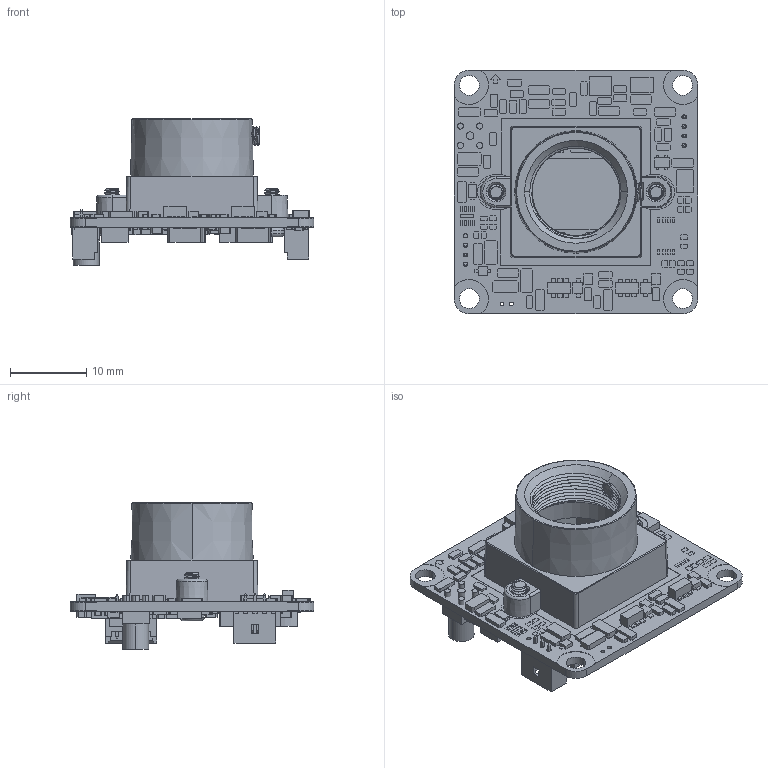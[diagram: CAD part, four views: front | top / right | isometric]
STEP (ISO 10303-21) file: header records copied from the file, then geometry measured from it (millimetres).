
FILE_DESCRIPTION(('FreeCAD Model'),'2;1');
FILE_NAME('Open CASCADE Shape Model','2025-01-24T15:45:31',(''),(''), 'Open CASCADE STEP processor 7.6','FreeCAD','Unknown');
FILE_SCHEMA(('AUTOMOTIVE_DESIGN { 1 0 10303 214 1 1 1 1 }'));
Length unit declared in the file: millimetre
Products named in the file (8): 201-ESHSAHCV-662-xyzq-With_M12_Lens_Mount; 201; HD_CON; 53001; 53; LENS_HOLDER; SCREW; M2
Assembly tree (8 placements, depth 2):
  201-ESHSAHCV-662-xyzq-With_M12_Lens_Mount
    201
    HD_CON
    53001
    53
    LENS_HOLDER
    SCREW  x2
    M2
Bounding box: 32 x 32 x 19.2 mm (x, y, z)
Volume: 3062.6 mm3; surface area: 5683.4 mm2
Topology: 8 solids, 8 shells, 2562 faces, 6826 edges, 4512 vertices
Faces by surface type: plane 2254, cylinder 205, bspline 71, cone 16, torus 12, sphere 4
Entity records: 90603 total; most frequent: CARTESIAN_POINT 28421, ORIENTED_EDGE 13358, DIRECTION 11471, EDGE_CURVE 6679, LINE 6089, VECTOR 6089, VERTEX_POINT 4418, FACE_BOUND 2787
